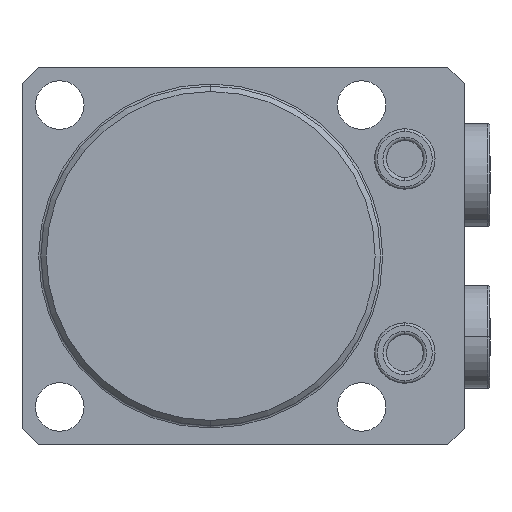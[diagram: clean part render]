
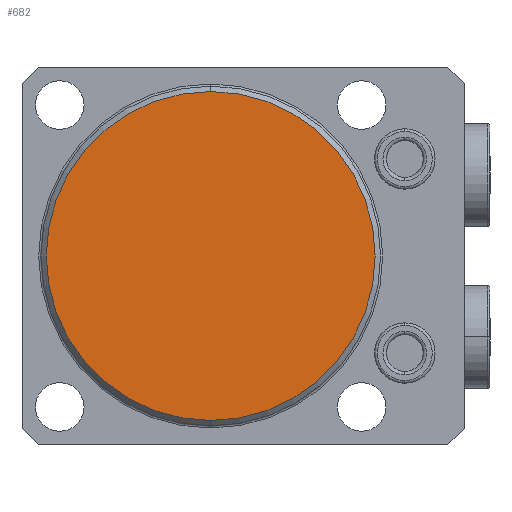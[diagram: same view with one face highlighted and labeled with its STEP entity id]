
A CAD part, front view. The second image highlights one B-rep face of the part: STEP entity #682.
In plain terms, the highlighted planar face has unit normal (0, -1, 0) as drawn and (0, 1, 0) by its records, which use the part's own axes.
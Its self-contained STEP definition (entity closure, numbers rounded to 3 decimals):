
#238=PLANE('',#4891);
#682=ADVANCED_FACE('',(#942),#238,.T.);
#942=FACE_OUTER_BOUND('',#1223,.F.);
#1223=EDGE_LOOP('',(#2845,#2846));
#2845=ORIENTED_EDGE('',*,*,#4067,.T.);
#2846=ORIENTED_EDGE('',*,*,#3970,.T.);
#3422=VERTEX_POINT('',#7450);
#3423=VERTEX_POINT('',#7451);
#3970=EDGE_CURVE('',#3422,#3423,#4374,.T.);
#4067=EDGE_CURVE('',#3423,#3422,#4395,.T.);
#4374=CIRCLE('',#4852,30.5);
#4395=CIRCLE('',#4890,30.5);
#4852=AXIS2_PLACEMENT_3D('',#7449,#6045,#6046);
#4890=AXIS2_PLACEMENT_3D('',#7725,#6172,#6173);
#4891=AXIS2_PLACEMENT_3D('',#7726,#6174,#6175);
#6045=DIRECTION('',(0.,-1.,0.));
#6046=DIRECTION('',(0.,0.,1.));
#6172=DIRECTION('',(0.,-1.,0.));
#6173=DIRECTION('',(0.,0.,1.));
#6174=DIRECTION('',(0.,1.,0.));
#6175=DIRECTION('',(0.,0.,1.));
#7449=CARTESIAN_POINT('',(0.,-47.,0.));
#7450=CARTESIAN_POINT('',(0.,-47.,-30.5));
#7451=CARTESIAN_POINT('',(0.,-47.,30.5));
#7725=CARTESIAN_POINT('',(0.,-47.,0.));
#7726=CARTESIAN_POINT('',(0.,-47.,0.));
